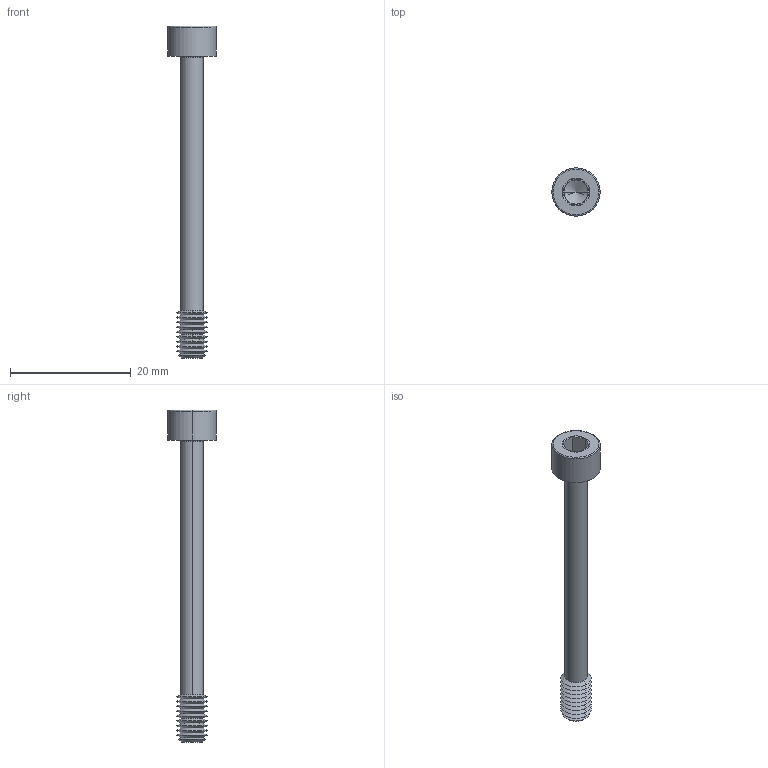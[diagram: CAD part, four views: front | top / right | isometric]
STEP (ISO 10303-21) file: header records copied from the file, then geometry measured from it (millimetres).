
FILE_DESCRIPTION (( 'STEP AP203' ), '1' );
FILE_NAME ('P0154.050-050-BL.step', '2024-06-17T11:28:00', ( '' ), ( '' ), 'SwSTEP 2.0', 'SolidWorks 2019', '' );
FILE_SCHEMA (( 'CONFIG_CONTROL_DESIGN' ));
Length unit declared in the file: millimetre
Products named in the file (1): P0154.050-050-BL
Bounding box: 8 x 8 x 55 mm (x, y, z)
Volume: 758.5 mm3; surface area: 978 mm2
Topology: 1 solids, 1 shells, 71 faces, 144 edges, 75 vertices
Faces by surface type: cone 48, plane 15, torus 4, cylinder 4
Entity records: 1887 total; most frequent: DIRECTION 352, CARTESIAN_POINT 315, ORIENTED_EDGE 284, AXIS2_PLACEMENT_3D 144, EDGE_CURVE 142, VERTEX_POINT 75, EDGE_LOOP 73, CIRCLE 72
